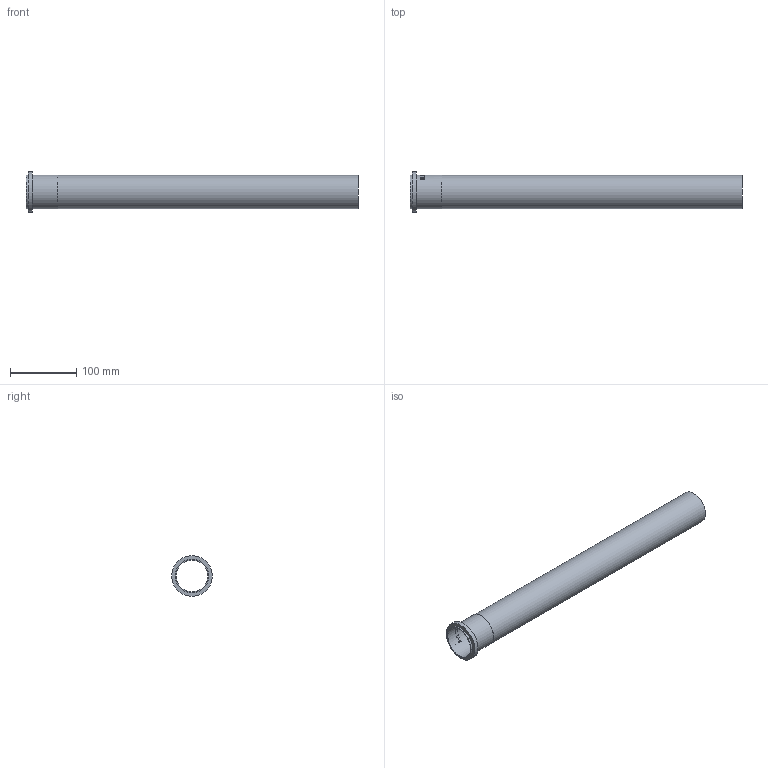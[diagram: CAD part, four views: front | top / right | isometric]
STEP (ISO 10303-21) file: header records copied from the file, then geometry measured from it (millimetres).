
FILE_DESCRIPTION((''),'2;1');
FILE_NAME('I:\WATTS\3D_CAD\3D_CAD_Models\Blucher_Drains\P_StraightPipe\WebsiteFiles\3D\STEP\P2-1.6-316.stp','2009-12-02T13:27:00',('menesek'),(''),'Autodesk Inventor 2010','Autodesk Inventor 2010','');
FILE_SCHEMA(('AUTOMOTIVE_DESIGN { 1 0 10303 214 1 1 1 1 }'));
Length unit declared in the file: inch
Products named in the file (1): P2-1.6-316
Bounding box: 500 x 60.96 x 60.96 mm (x, y, z)
Volume: 86759.4 mm3; surface area: 156597 mm2
Topology: 1 solids, 1 shells, 109 faces, 285 edges, 190 vertices
Faces by surface type: plane 59, bspline 34, cylinder 16
Full cylindrical faces by diameter (mm): 48.006 x1, 50.038 x1, 50.8 x2, 60.96 x1
Entity records: 13765 total; most frequent: CARTESIAN_POINT 11387, ORIENTED_EDGE 548, DIRECTION 356, EDGE_CURVE 274, VERTEX_POINT 186, EDGE_LOOP 128, AXIS2_PLACEMENT_3D 120, VECTOR 116
